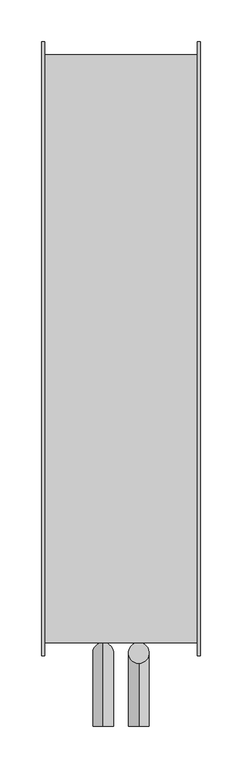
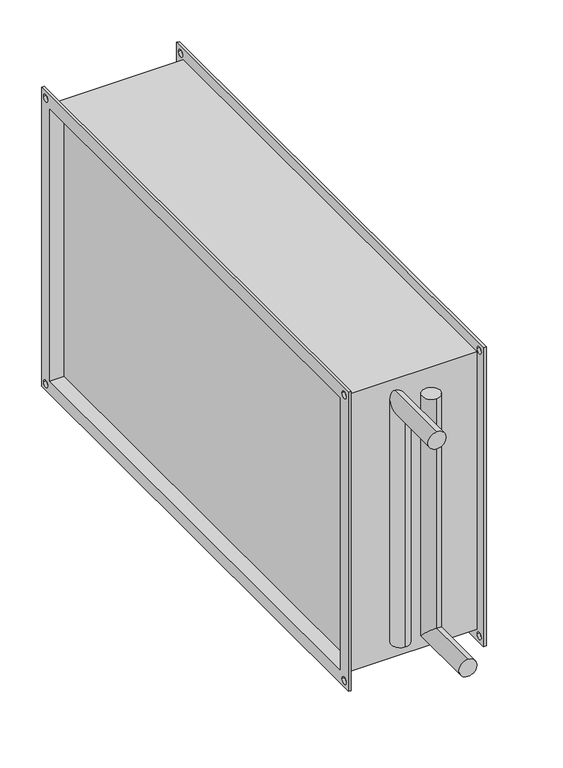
"""IFC4 building model written with IfcOpenShell, lengths in millimetres: proxy geometry, СВ_ВоздухонагревательВодяной_КанальныйПрямоугольный_200-1000_SPH-W : SPH-W-700x400/3."""

from ifc_helpers import new_model, si_unit, frame, origin, place, context, project, spatial, polyline, circle_curve, ellipse_curve, source, transform, mapped, element, save
from ifc_brep_helpers import plane_surface, cylinder_surface, revolved_surface, advanced_brep


def mechanical_equipment_bb8f5485(model_context):
    return source(origin(), model_context, "Body", "AdvancedBrep", [
        advanced_brep(
        [(21.5, -354.0, 175.0), (21.5, -379.0, 175.0), (21.5, -354.0, -187.5), (21.5, -379.0, -162.5), (21.5, -455.0, -187.5), (21.5, -455.0, -162.5)],
        [
            (0, 1, circle_curve(frame((21.5, -366.5, 175.0), z_axis=(0.0, 0.0, 1.0), x_axis=(0.0, -1.0, 0.0)), 12.5)),
            (1, 0, circle_curve(frame((21.5, -366.5, 175.0), z_axis=(0.0, 0.0, 1.0), x_axis=(0.0, -1.0, 0.0)), 12.5)),
            (0, 2),
            (2, 3, ellipse_curve(frame((21.5, -366.5, -175.0), z_axis=(0.0, 0.7071067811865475, 0.7071067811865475), x_axis=(0.0, -0.7071067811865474, 0.7071067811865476)), 17.6776695, 12.5)),
            (3, 1),
            (3, 2, ellipse_curve(frame((21.5, -366.5, -175.0), z_axis=(0.0, 0.7071067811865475, 0.7071067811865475), x_axis=(0.0, -0.7071067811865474, 0.7071067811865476)), 17.6776695, 12.5)),
            (4, 5, circle_curve(frame((21.5, -455.0, -175.0), z_axis=(0.0, -1.0, 0.0), x_axis=(0.0, 0.0, 1.0)), 12.5)),
            (5, 4, circle_curve(frame((21.5, -455.0, -175.0), z_axis=(0.0, -1.0, 0.0), x_axis=(0.0, 0.0, 1.0)), 12.5)),
            (2, 4),
            (5, 3),
        ],
        [
            plane_surface(frame((21.5, -366.5, 175.0), z_axis=(0.0, 0.0, 1.0), x_axis=(-1.0, 0.0, 0.0))),
            cylinder_surface(frame((21.5, -366.5, 175.0), z_axis=(0.0, 0.0, 1.0), x_axis=(0.0, -1.0, 0.0)), 12.5),
            plane_surface(frame((21.5, -455.0, -175.0), z_axis=(0.0, -1.0, 0.0), x_axis=(-1.0, 0.0, 0.0))),
            cylinder_surface(frame((21.5, -366.5, -175.0), z_axis=(0.0, 1.0, 0.0), x_axis=(0.0, 0.0, 1.0)), 12.5),
        ],
        [
            (0, [[1, 2]]),
            (1, [[-1, 3, 4, 5]]),
            (1, [[-2, -5, 6, -3]]),
            (2, [[7, 8]]),
            (3, [[-4, 9, -8, 10]]),
            (3, [[-6, -10, -7, -9]]),
        ],
    ),
        advanced_brep(
        [(-21.5, -354.0, -175.0), (-21.5, -379.0, -175.0), (-21.5, -354.0, 187.5), (-21.5, -379.0, 162.5), (-21.5, -455.0, 187.5), (-21.5, -455.0, 162.5)],
        [
            (0, 1, circle_curve(frame((-21.5, -366.5, -175.0), z_axis=(0.0, 0.0, -1.0), x_axis=(0.0, -1.0, 0.0)), 12.5)),
            (1, 0, circle_curve(frame((-21.5, -366.5, -175.0), z_axis=(0.0, 0.0, -1.0), x_axis=(0.0, -1.0, 0.0)), 12.5)),
            (0, 2),
            (2, 3, ellipse_curve(frame((-21.5, -366.5, 175.0), z_axis=(0.0, 0.7071067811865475, -0.7071067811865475), x_axis=(0.0, -0.7071067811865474, -0.7071067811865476)), 17.6776695, 12.5)),
            (3, 1),
            (3, 2, ellipse_curve(frame((-21.5, -366.5, 175.0), z_axis=(0.0, 0.7071067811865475, -0.7071067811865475), x_axis=(0.0, -0.7071067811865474, -0.7071067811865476)), 17.6776695, 12.5)),
            (4, 5, circle_curve(frame((-21.5, -455.0, 175.0), z_axis=(0.0, -1.0, 0.0), x_axis=(0.0, 0.0, -1.0)), 12.5)),
            (5, 4, circle_curve(frame((-21.5, -455.0, 175.0), z_axis=(0.0, -1.0, 0.0), x_axis=(0.0, 0.0, -1.0)), 12.5)),
            (2, 4),
            (5, 3),
        ],
        [
            plane_surface(frame((-21.5, -366.5, -175.0), z_axis=(0.0, 0.0, -1.0), x_axis=(1.0, 0.0, 0.0))),
            cylinder_surface(frame((-21.5, -366.5, -175.0), z_axis=(0.0, 0.0, -1.0), x_axis=(0.0, -1.0, 0.0)), 12.5),
            plane_surface(frame((-21.5, -455.0, 175.0), z_axis=(0.0, -1.0, 0.0), x_axis=(1.0, 0.0, 0.0))),
            cylinder_surface(frame((-21.5, -366.5, 175.0), z_axis=(0.0, 1.0, 0.0), x_axis=(0.0, 0.0, -1.0)), 12.5),
        ],
        [
            (0, [[1, 2]]),
            (1, [[-1, 3, 4, 5]]),
            (1, [[-2, -5, 6, -3]]),
            (2, [[7, 8]]),
            (3, [[-4, 9, -8, 10]]),
            (3, [[-6, -10, -7, -9]]),
        ],
    ),
        advanced_brep(
        [(-92.0, -354.0, 204.0), (-92.0, -354.0, -204.0), (92.0, -354.0, -204.0), (92.0, -354.0, 204.0), (-92.0, 354.0, -204.0), (92.0, 354.0, -204.0), (-92.0, 354.0, 204.0), (92.0, 354.0, 204.0), (76.0, 350.0, -200.0), (76.0, 350.0, 200.0), (76.0, -350.0, 200.0), (76.0, -350.0, -200.0), (-76.0, -350.0, 200.0), (-76.0, 350.0, 200.0), (-76.0, 350.0, -200.0), (-76.0, -350.0, -200.0), (-96.0, -370.0, 220.0), (-96.0, 370.0, 220.0), (-96.0, 370.0, -220.0), (-96.0, -370.0, -220.0), (-96.0, -350.0, 200.0), (-96.0, -350.0, -200.0), (-96.0, 350.0, -200.0), (-96.0, 350.0, 200.0), (-96.0, 355.0, 210.0), (-96.0, 365.0, 210.0), (-96.0, -365.0, 210.0), (-96.0, -355.0, 210.0), (-96.0, -365.0, -210.0), (-96.0, -355.0, -210.0), (-96.0, 355.0, -210.0), (-96.0, 365.0, -210.0), (-92.0, -370.0, 220.0), (-92.0, -370.0, -220.0), (-92.0, 370.0, -220.0), (-92.0, 370.0, 220.0), (-92.0, 365.0, 210.0), (-92.0, 355.0, 210.0), (-92.0, -355.0, 210.0), (-92.0, -365.0, 210.0), (-92.0, -355.0, -210.0), (-92.0, -365.0, -210.0), (-92.0, 365.0, -210.0), (-92.0, 355.0, -210.0), (92.0, 370.0, 220.0), (92.0, 370.0, -220.0), (92.0, -370.0, -220.0), (92.0, -370.0, 220.0), (92.0, 355.0, 210.0), (92.0, 365.0, 210.0), (92.0, -365.0, 210.0), (92.0, -355.0, 210.0), (92.0, -365.0, -210.0), (92.0, -355.0, -210.0), (92.0, 355.0, -210.0), (92.0, 365.0, -210.0), (96.0, 370.0, 220.0), (96.0, -370.0, 220.0), (96.0, -370.0, -220.0), (96.0, 370.0, -220.0), (96.0, 350.0, 200.0), (96.0, 350.0, -200.0), (96.0, -350.0, -200.0), (96.0, -350.0, 200.0), (96.0, 365.0, 210.0), (96.0, 355.0, 210.0), (96.0, -355.0, 210.0), (96.0, -365.0, 210.0), (96.0, -355.0, -210.0), (96.0, -365.0, -210.0), (96.0, 365.0, -210.0), (96.0, 355.0, -210.0)],
        [
            (0, 1),
            (1, 2),
            (2, 3),
            (3, 0),
            (1, 4),
            (4, 5),
            (5, 2),
            (4, 6),
            (6, 7),
            (7, 5),
            (6, 0),
            (3, 7),
            (8, 9),
            (9, 10),
            (10, 11),
            (11, 8),
            (12, 13),
            (13, 14),
            (14, 15),
            (15, 12),
            (16, 17),
            (17, 18),
            (18, 19),
            (19, 16),
            (20, 21),
            (21, 22),
            (22, 23),
            (23, 20),
            (24, 25, circle_curve(frame((-96.0, 360.0, 210.0), z_axis=(1.0, 0.0, 0.0), x_axis=(0.0, -1.0, 0.0)), 5.0)),
            (25, 24, circle_curve(frame((-96.0, 360.0, 210.0), z_axis=(1.0, 0.0, 0.0), x_axis=(0.0, -1.0, 0.0)), 5.0)),
            (26, 27, circle_curve(frame((-96.0, -360.0, 210.0), z_axis=(1.0, 0.0, 0.0), x_axis=(0.0, -1.0, 0.0)), 5.0)),
            (27, 26, circle_curve(frame((-96.0, -360.0, 210.0), z_axis=(1.0, 0.0, 0.0), x_axis=(0.0, -1.0, 0.0)), 5.0)),
            (28, 29, circle_curve(frame((-96.0, -360.0, -210.0), z_axis=(1.0, 0.0, 0.0), x_axis=(0.0, -1.0, 0.0)), 5.0)),
            (29, 28, circle_curve(frame((-96.0, -360.0, -210.0), z_axis=(1.0, 0.0, 0.0), x_axis=(0.0, -1.0, 0.0)), 5.0)),
            (30, 31, circle_curve(frame((-96.0, 360.0, -210.0), z_axis=(1.0, 0.0, 0.0), x_axis=(0.0, -1.0, 0.0)), 5.0)),
            (31, 30, circle_curve(frame((-96.0, 360.0, -210.0), z_axis=(1.0, 0.0, 0.0), x_axis=(0.0, -1.0, 0.0)), 5.0)),
            (32, 33),
            (33, 34),
            (34, 35),
            (35, 32),
            (36, 37, circle_curve(frame((-92.0, 360.0, 210.0), z_axis=(-1.0, 0.0, 0.0), x_axis=(0.0, -1.0, 0.0)), 5.0)),
            (37, 36, circle_curve(frame((-92.0, 360.0, 210.0), z_axis=(-1.0, 0.0, 0.0), x_axis=(0.0, -1.0, 0.0)), 5.0)),
            (38, 39, circle_curve(frame((-92.0, -360.0, 210.0), z_axis=(-1.0, 0.0, 0.0), x_axis=(0.0, -1.0, 0.0)), 5.0)),
            (39, 38, circle_curve(frame((-92.0, -360.0, 210.0), z_axis=(-1.0, 0.0, 0.0), x_axis=(0.0, -1.0, 0.0)), 5.0)),
            (40, 41, circle_curve(frame((-92.0, -360.0, -210.0), z_axis=(-1.0, 0.0, 0.0), x_axis=(0.0, -1.0, 0.0)), 5.0)),
            (41, 40, circle_curve(frame((-92.0, -360.0, -210.0), z_axis=(-1.0, 0.0, 0.0), x_axis=(0.0, -1.0, 0.0)), 5.0)),
            (42, 43, circle_curve(frame((-92.0, 360.0, -210.0), z_axis=(-1.0, 0.0, 0.0), x_axis=(0.0, -1.0, 0.0)), 5.0)),
            (43, 42, circle_curve(frame((-92.0, 360.0, -210.0), z_axis=(-1.0, 0.0, 0.0), x_axis=(0.0, -1.0, 0.0)), 5.0)),
            (19, 33),
            (32, 16),
            (18, 34),
            (17, 35),
            (44, 45),
            (45, 46),
            (46, 47),
            (47, 44),
            (48, 49, circle_curve(frame((92.0, 360.0, 210.0), z_axis=(1.0, 0.0, 0.0), x_axis=(0.0, -1.0, 0.0)), 5.0)),
            (49, 48, circle_curve(frame((92.0, 360.0, 210.0), z_axis=(1.0, 0.0, 0.0), x_axis=(0.0, -1.0, 0.0)), 5.0)),
            (50, 51, circle_curve(frame((92.0, -360.0, 210.0), z_axis=(1.0, 0.0, 0.0), x_axis=(0.0, -1.0, 0.0)), 5.0)),
            (51, 50, circle_curve(frame((92.0, -360.0, 210.0), z_axis=(1.0, 0.0, 0.0), x_axis=(0.0, -1.0, 0.0)), 5.0)),
            (52, 53, circle_curve(frame((92.0, -360.0, -210.0), z_axis=(1.0, 0.0, 0.0), x_axis=(0.0, -1.0, 0.0)), 5.0)),
            (53, 52, circle_curve(frame((92.0, -360.0, -210.0), z_axis=(1.0, 0.0, 0.0), x_axis=(0.0, -1.0, 0.0)), 5.0)),
            (54, 55, circle_curve(frame((92.0, 360.0, -210.0), z_axis=(1.0, 0.0, 0.0), x_axis=(0.0, -1.0, 0.0)), 5.0)),
            (55, 54, circle_curve(frame((92.0, 360.0, -210.0), z_axis=(1.0, 0.0, 0.0), x_axis=(0.0, -1.0, 0.0)), 5.0)),
            (56, 57),
            (57, 58),
            (58, 59),
            (59, 56),
            (60, 61),
            (61, 62),
            (62, 63),
            (63, 60),
            (64, 65, circle_curve(frame((96.0, 360.0, 210.0), z_axis=(-1.0, 0.0, 0.0), x_axis=(0.0, -1.0, 0.0)), 5.0)),
            (65, 64, circle_curve(frame((96.0, 360.0, 210.0), z_axis=(-1.0, 0.0, 0.0), x_axis=(0.0, -1.0, 0.0)), 5.0)),
            (66, 67, circle_curve(frame((96.0, -360.0, 210.0), z_axis=(-1.0, 0.0, 0.0), x_axis=(0.0, -1.0, 0.0)), 5.0)),
            (67, 66, circle_curve(frame((96.0, -360.0, 210.0), z_axis=(-1.0, 0.0, 0.0), x_axis=(0.0, -1.0, 0.0)), 5.0)),
            (68, 69, circle_curve(frame((96.0, -360.0, -210.0), z_axis=(-1.0, 0.0, 0.0), x_axis=(0.0, -1.0, 0.0)), 5.0)),
            (69, 68, circle_curve(frame((96.0, -360.0, -210.0), z_axis=(-1.0, 0.0, 0.0), x_axis=(0.0, -1.0, 0.0)), 5.0)),
            (70, 71, circle_curve(frame((96.0, 360.0, -210.0), z_axis=(-1.0, 0.0, 0.0), x_axis=(0.0, -1.0, 0.0)), 5.0)),
            (71, 70, circle_curve(frame((96.0, 360.0, -210.0), z_axis=(-1.0, 0.0, 0.0), x_axis=(0.0, -1.0, 0.0)), 5.0)),
            (47, 57),
            (56, 44),
            (46, 58),
            (45, 59),
            (23, 13),
            (12, 20),
            (22, 14),
            (21, 15),
            (60, 9),
            (8, 61),
            (11, 62),
            (10, 63),
            (36, 25),
            (24, 37),
            (64, 49),
            (48, 65),
            (38, 27),
            (26, 39),
            (66, 51),
            (50, 67),
            (40, 29),
            (28, 41),
            (68, 53),
            (52, 69),
            (42, 31),
            (30, 43),
            (70, 55),
            (54, 71),
        ],
        [
            plane_surface(frame((-76.0, -354.0, 204.0), z_axis=(0.0, -1.0, 0.0), x_axis=(-1.0, 0.0, 0.0))),
            plane_surface(frame((-76.0, -354.0, -204.0), z_axis=(0.0, 0.0, -1.0), x_axis=(-1.0, 0.0, 0.0))),
            plane_surface(frame((-76.0, 354.0, -204.0), z_axis=(0.0, 1.0, 0.0), x_axis=(-1.0, 0.0, 0.0))),
            plane_surface(frame((-76.0, 354.0, 204.0), z_axis=(0.0, 0.0, 1.0), x_axis=(-1.0, 0.0, 0.0))),
            plane_surface(frame((76.0, -354.0, 204.0), z_axis=(1.0, 0.0, 0.0), x_axis=(0.0, 0.0, -1.0))),
            plane_surface(frame((-76.0, -354.0, 204.0), z_axis=(-1.0, 0.0, 0.0), x_axis=(0.0, 0.0, 1.0))),
            plane_surface(frame((-96.0, -370.0, 220.0), z_axis=(-1.0, 0.0, 0.0), x_axis=(0.0, 0.0, 1.0))),
            plane_surface(frame((-92.0, -370.0, 220.0), z_axis=(1.0, 0.0, 0.0), x_axis=(0.0, 0.0, -1.0))),
            plane_surface(frame((-92.0, -370.0, 220.0), z_axis=(0.0, -1.0, 0.0), x_axis=(-1.0, 0.0, 0.0))),
            plane_surface(frame((-92.0, -370.0, -220.0), z_axis=(0.0, 0.0, -1.0), x_axis=(-1.0, 0.0, 0.0))),
            plane_surface(frame((-92.0, 370.0, -220.0), z_axis=(0.0, 1.0, 0.0), x_axis=(-1.0, 0.0, 0.0))),
            plane_surface(frame((-92.0, 370.0, 220.0), z_axis=(0.0, 0.0, 1.0), x_axis=(-1.0, 0.0, 0.0))),
            plane_surface(frame((92.0, 350.0, -200.0), z_axis=(-1.0, 0.0, 0.0), x_axis=(0.0, 0.0, 1.0))),
            plane_surface(frame((96.0, 350.0, -200.0), z_axis=(1.0, 0.0, 0.0), x_axis=(0.0, 0.0, -1.0))),
            plane_surface(frame((96.0, 370.0, 220.0), z_axis=(0.0, 0.0, 1.0), x_axis=(-1.0, 0.0, 0.0))),
            plane_surface(frame((96.0, -370.0, 220.0), z_axis=(0.0, -1.0, 0.0), x_axis=(-1.0, 0.0, 0.0))),
            plane_surface(frame((96.0, -370.0, -220.0), z_axis=(0.0, 0.0, -1.0), x_axis=(-1.0, 0.0, 0.0))),
            plane_surface(frame((96.0, 370.0, -220.0), z_axis=(0.0, 1.0, 0.0), x_axis=(-1.0, 0.0, 0.0))),
            plane_surface(frame((-92.0, -350.0, 200.0), z_axis=(0.0, 0.0, -1.0), x_axis=(-1.0, 0.0, 0.0))),
            plane_surface(frame((-92.0, 350.0, 200.0), z_axis=(0.0, -1.0, 0.0), x_axis=(-1.0, 0.0, 0.0))),
            plane_surface(frame((-92.0, 350.0, -200.0), z_axis=(0.0, 0.0, 1.0), x_axis=(-1.0, 0.0, 0.0))),
            plane_surface(frame((-92.0, -350.0, -200.0), z_axis=(0.0, 1.0, 0.0), x_axis=(-1.0, 0.0, 0.0))),
            plane_surface(frame((96.0, 350.0, 200.0), z_axis=(0.0, -1.0, 0.0), x_axis=(-1.0, 0.0, 0.0))),
            plane_surface(frame((96.0, 350.0, -200.0), z_axis=(0.0, 0.0, 1.0), x_axis=(-1.0, 0.0, 0.0))),
            plane_surface(frame((96.0, -350.0, -200.0), z_axis=(0.0, 1.0, 0.0), x_axis=(-1.0, 0.0, 0.0))),
            plane_surface(frame((96.0, -350.0, 200.0), z_axis=(0.0, 0.0, -1.0), x_axis=(-1.0, 0.0, 0.0))),
            revolved_surface(polyline([(-96.0, 355.0, 210.0), (-92.0, 355.0, 210.0)]), (96.0, 360.0, 210.0), (-1.0, 0.0, 0.0)),
            revolved_surface(polyline([(92.0, 355.0, 210.0), (96.0, 355.0, 210.0)]), (96.0, 360.0, 210.0), (-1.0, 0.0, 0.0)),
            revolved_surface(polyline([(-96.0, -365.0, 210.0), (-92.0, -365.0, 210.0)]), (21.5, -360.0, 210.0), (-1.0, 0.0, 0.0)),
            revolved_surface(polyline([(92.0, -365.0, 210.0), (96.0, -365.0, 210.0)]), (21.5, -360.0, 210.0), (-1.0, 0.0, 0.0)),
            revolved_surface(polyline([(-96.0, -365.0, -210.0), (-92.0, -365.0, -210.0)]), (21.5, -360.0, -210.0), (-1.0, 0.0, 0.0)),
            revolved_surface(polyline([(92.0, -365.0, -210.0), (96.0, -365.0, -210.0)]), (21.5, -360.0, -210.0), (-1.0, 0.0, 0.0)),
            revolved_surface(polyline([(-96.0, 355.0, -210.0), (-92.0, 355.0, -210.0)]), (21.5, 360.0, -210.0), (-1.0, 0.0, 0.0)),
            revolved_surface(polyline([(92.0, 355.0, -210.0), (96.0, 355.0, -210.0)]), (21.5, 360.0, -210.0), (-1.0, 0.0, 0.0)),
        ],
        [
            (0, [[1, 2, 3, 4]]),
            (1, [[-2, 5, 6, 7]]),
            (2, [[-6, 8, 9, 10]]),
            (3, [[-9, 11, -4, 12]]),
            (4, [[13, 14, 15, 16]]),
            (5, [[17, 18, 19, 20]]),
            (6, [[21, 22, 23, 24], [25, 26, 27, 28], [29, 30], [31, 32], [33, 34], [35, 36]]),
            (7, [[37, 38, 39, 40], [-1, -11, -8, -5], [41, 42], [43, 44], [45, 46], [47, 48]]),
            (8, [[-24, 49, -37, 50]]),
            (9, [[-23, 51, -38, -49]]),
            (10, [[-22, 52, -39, -51]]),
            (11, [[-21, -50, -40, -52]]),
            (12, [[53, 54, 55, 56], [-3, -7, -10, -12], [57, 58], [59, 60], [61, 62], [63, 64]]),
            (13, [[65, 66, 67, 68], [69, 70, 71, 72], [73, 74], [75, 76], [77, 78], [79, 80]]),
            (14, [[-56, 81, -65, 82]]),
            (15, [[-55, 83, -66, -81]]),
            (16, [[-54, 84, -67, -83]]),
            (17, [[-53, -82, -68, -84]]),
            (18, [[-28, 85, -17, 86]]),
            (19, [[-27, 87, -18, -85]]),
            (20, [[-26, 88, -19, -87]]),
            (21, [[-25, -86, -20, -88]]),
            (22, [[-69, 89, -13, 90]]),
            (23, [[-70, -90, -16, 91]]),
            (24, [[-71, -91, -15, 92]]),
            (25, [[-89, -72, -92, -14]]),
            (26, [[93, -29, 94, -41]]),
            (27, [[95, -57, 96, -73]]),
            (26, [[-93, -42, -94, -30]]),
            (27, [[-95, -74, -96, -58]]),
            (28, [[97, -31, 98, -43]]),
            (29, [[99, -59, 100, -75]]),
            (28, [[-97, -44, -98, -32]]),
            (29, [[-99, -76, -100, -60]]),
            (30, [[101, -33, 102, -45]]),
            (31, [[103, -61, 104, -77]]),
            (30, [[-101, -46, -102, -34]]),
            (31, [[-103, -78, -104, -62]]),
            (32, [[105, -35, 106, -47]]),
            (33, [[107, -63, 108, -79]]),
            (32, [[-105, -48, -106, -36]]),
            (33, [[-107, -80, -108, -64]]),
        ],
    ),
    ])


if __name__ == "__main__":
    model = new_model("IFC4")
    model_context = context("Model", 3, world=origin())
    ifc_project = project(units=[si_unit("LENGTHUNIT", "METRE", prefix="MILLI")], contexts=[model_context])
    site = spatial("IfcSite", under=ifc_project)
    building = spatial("IfcBuilding", under=site)
    placement = place(None, origin())
    mechanical_equipment_shape = mechanical_equipment_bb8f5485(model_context)
    element("IfcBuildingElementProxy", 1, Name="СВ_ВоздухонагревательВодяной_КанальныйПрямоугольный_200-1000_SPH-W : SPH-W-700x400/3", ObjectType="СВ_ВоздухонагревательВодяной_КанальныйПрямоугольный_200-1000_SPH-W : SPH-W-700x400/3", at=placement, inside=building, context=model_context, shape_type="MappedRepresentation", body=[
        mapped(mechanical_equipment_shape, transform((0.0, 0.0, 0.0), x_axis=(1.0, 0.0, 0.0), y_axis=(0.0, 1.0, 0.0), z_axis=(0.0, 0.0, 1.0))),
    ])
    save(model, "model.ifc")
